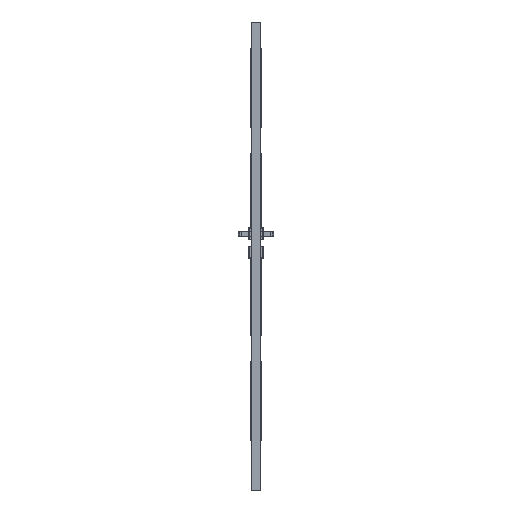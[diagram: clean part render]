
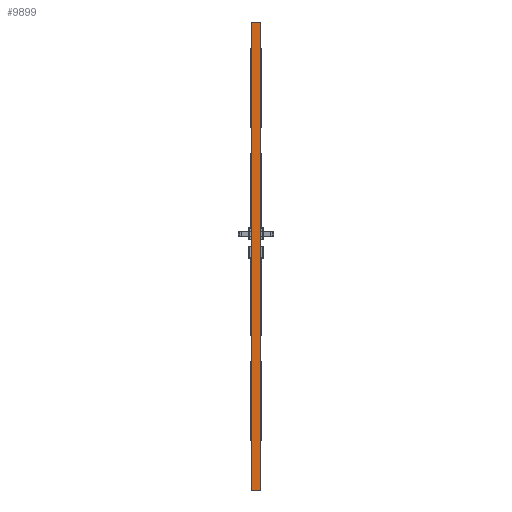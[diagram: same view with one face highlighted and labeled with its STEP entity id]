
A CAD part, left-side view. The second image highlights one B-rep face of the part: STEP entity #9899.
In plain terms, the highlighted planar face has unit normal (-1, 0, 0).
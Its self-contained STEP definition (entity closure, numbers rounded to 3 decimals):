
#5902=FACE_OUTER_BOUND('',#18704,.T.);
#9899=ADVANCED_FACE('',(#5902),#13415,.F.);
#13415=PLANE('',#71417);
#18704=EDGE_LOOP('',(#26428,#26429,#26430,#26431,#26432,#26433));
#26428=ORIENTED_EDGE('',*,*,#50352,.T.);
#26429=ORIENTED_EDGE('',*,*,#50354,.T.);
#26430=ORIENTED_EDGE('',*,*,#50355,.T.);
#26431=ORIENTED_EDGE('',*,*,#50356,.T.);
#26432=ORIENTED_EDGE('',*,*,#50322,.F.);
#26433=ORIENTED_EDGE('',*,*,#50357,.F.);
#43500=VERTEX_POINT('',#102628);
#43501=VERTEX_POINT('',#102629);
#43528=VERTEX_POINT('',#102747);
#43529=VERTEX_POINT('',#102749);
#43530=VERTEX_POINT('',#102753);
#43531=VERTEX_POINT('',#102755);
#50322=EDGE_CURVE('',#43500,#43501,#59323,.T.);
#50352=EDGE_CURVE('',#43529,#43528,#59333,.T.);
#50354=EDGE_CURVE('',#43528,#43530,#59335,.T.);
#50355=EDGE_CURVE('',#43530,#43531,#59336,.T.);
#50356=EDGE_CURVE('',#43531,#43501,#59337,.T.);
#50357=EDGE_CURVE('',#43529,#43500,#59338,.T.);
#59323=LINE('',#102627,#65152);
#59333=LINE('',#102748,#65162);
#59335=LINE('',#102752,#65164);
#59336=LINE('',#102754,#65165);
#59337=LINE('',#102756,#65166);
#59338=LINE('',#102757,#65167);
#65152=VECTOR('',#78699,1.);
#65162=VECTOR('',#78713,1.);
#65164=VECTOR('',#78717,1.);
#65165=VECTOR('',#78718,1.);
#65166=VECTOR('',#78719,1.);
#65167=VECTOR('',#78720,1.);
#71417=AXIS2_PLACEMENT_3D('',#102758,#78721,#78722);
#78699=DIRECTION('',(0.,0.,-1.));
#78713=DIRECTION('',(0.,0.,-1.));
#78717=DIRECTION('',(0.,-0.707,-0.707));
#78718=DIRECTION('',(0.,-1.,0.));
#78719=DIRECTION('',(0.,-0.707,0.707));
#78720=DIRECTION('',(0.,-1.,0.));
#78721=DIRECTION('',(1.,0.,0.));
#78722=DIRECTION('',(0.,1.,0.));
#102627=CARTESIAN_POINT('',(-309.,-39.3,2017.));
#102628=CARTESIAN_POINT('',(-309.,-39.3,2017.));
#102629=CARTESIAN_POINT('',(-309.,-39.3,2.));
#102747=CARTESIAN_POINT('',(-309.,0.,2.));
#102748=CARTESIAN_POINT('',(-309.,0.,2017.));
#102749=CARTESIAN_POINT('',(-309.,0.,2017.));
#102752=CARTESIAN_POINT('',(-309.,0.,2.));
#102753=CARTESIAN_POINT('',(-309.,-2.,0.));
#102754=CARTESIAN_POINT('',(-309.,0.,0.));
#102755=CARTESIAN_POINT('',(-309.,-37.3,0.));
#102756=CARTESIAN_POINT('',(-309.,-39.3,2.));
#102757=CARTESIAN_POINT('',(-309.,0.,2017.));
#102758=CARTESIAN_POINT('',(-309.,0.,2017.));
